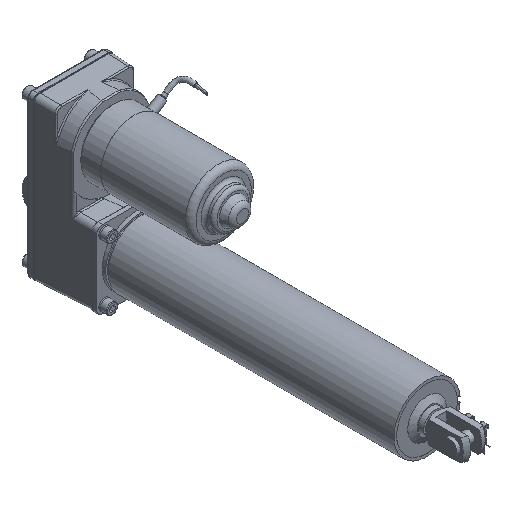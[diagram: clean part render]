
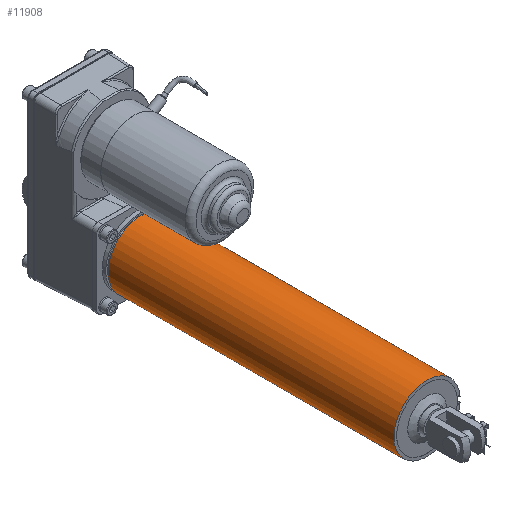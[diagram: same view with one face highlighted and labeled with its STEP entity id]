
A CAD part, isometric view. The second image highlights one B-rep face of the part: STEP entity #11908.
In plain terms, the highlighted cylindrical face has radius 30 mm (diameter 60 mm), a partial arc.
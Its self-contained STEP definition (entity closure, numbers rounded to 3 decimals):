
#354=CYLINDRICAL_SURFACE('',#12795,30.);
#1064=LINE('',#18530,#1689);
#1065=LINE('',#18531,#1690);
#1689=VECTOR('',#15127,1000.);
#1690=VECTOR('',#15128,1000.);
#3806=ORIENTED_EDGE('',*,*,#5033,.F.);
#3807=ORIENTED_EDGE('',*,*,#5034,.T.);
#3808=ORIENTED_EDGE('',*,*,#4996,.T.);
#3809=ORIENTED_EDGE('',*,*,#5035,.T.);
#4996=EDGE_CURVE('',#5795,#5796,#6176,.T.);
#5033=EDGE_CURVE('',#5823,#5824,#6193,.T.);
#5034=EDGE_CURVE('',#5823,#5795,#1064,.T.);
#5035=EDGE_CURVE('',#5796,#5824,#1065,.F.);
#5795=VERTEX_POINT('',#18454);
#5796=VERTEX_POINT('',#18455);
#5823=VERTEX_POINT('',#18528);
#5824=VERTEX_POINT('',#18529);
#6176=CIRCLE('',#12770,30.);
#6193=CIRCLE('',#12796,30.);
#6813=EDGE_LOOP('',(#3806,#3807,#3808,#3809));
#7489=FACE_BOUND('',#6813,.T.);
#11908=ADVANCED_FACE('',(#7489),#354,.T.);
#12770=AXIS2_PLACEMENT_3D('',#18453,#15053,#15054);
#12795=AXIS2_PLACEMENT_3D('',#18526,#15123,#15124);
#12796=AXIS2_PLACEMENT_3D('',#18527,#15125,#15126);
#15053=DIRECTION('',(0.,1.,0.));
#15054=DIRECTION('',(1.,0.,0.));
#15123=DIRECTION('',(0.,-1.,0.));
#15124=DIRECTION('',(0.,0.,-1.));
#15125=DIRECTION('',(0.,1.,0.));
#15126=DIRECTION('',(0.,0.,1.));
#15127=DIRECTION('',(0.,-1.,0.));
#15128=DIRECTION('',(0.,-1.,0.));
#18453=CARTESIAN_POINT('',(0.,0.,0.));
#18454=CARTESIAN_POINT('',(29.906,0.,-2.375));
#18455=CARTESIAN_POINT('',(29.906,0.,2.375));
#18526=CARTESIAN_POINT('',(0.,275.,0.));
#18527=CARTESIAN_POINT('',(0.,259.1,0.));
#18528=CARTESIAN_POINT('',(29.906,259.1,-2.375));
#18529=CARTESIAN_POINT('',(29.906,259.1,2.375));
#18530=CARTESIAN_POINT('',(29.906,275.,-2.375));
#18531=CARTESIAN_POINT('',(29.906,275.,2.375));
